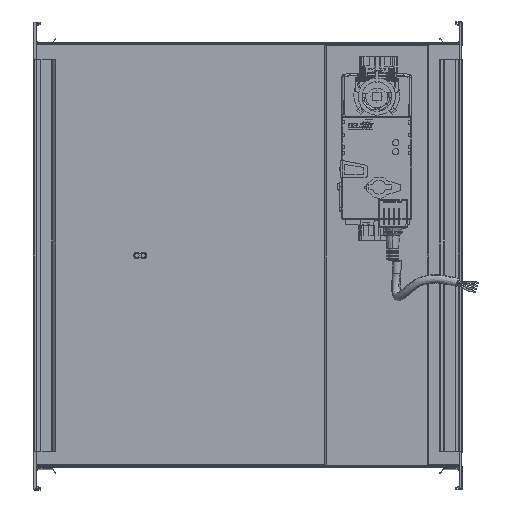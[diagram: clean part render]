
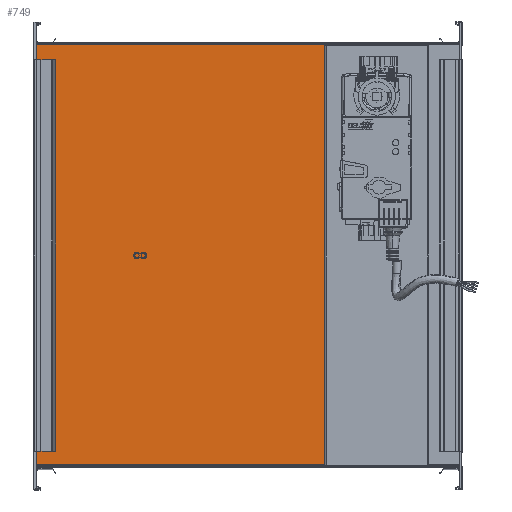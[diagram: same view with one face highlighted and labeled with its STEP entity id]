
A CAD part, top view. The second image highlights one B-rep face of the part: STEP entity #749.
In plain terms, the highlighted planar face has unit normal (0, 0, 1).
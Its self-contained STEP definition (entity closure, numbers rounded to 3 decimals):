
#749 = ADVANCED_FACE ( 'NONE', ( #80252 ), #9471, .T. ) ;
#943 = DIRECTION ( 'NONE',  ( 1., 0., 0. ) ) ;
#4103 = ORIENTED_EDGE ( 'NONE', *, *, #27367, .F. ) ;
#9471 = PLANE ( 'NONE',  #26843 ) ;
#15178 = CARTESIAN_POINT ( 'NONE',  ( -244.423, -183.848, 1350. ) ) ;
#16712 = CARTESIAN_POINT ( 'NONE',  ( -244.423, -183.848, 1350. ) ) ;
#16724 = CARTESIAN_POINT ( 'NONE',  ( 28.275, -185.848, 1350. ) ) ;
#19499 = CARTESIAN_POINT ( 'NONE',  ( -244.423, -183.848, 1350. ) ) ;
#19653 = VERTEX_POINT ( 'NONE', #43065 ) ;
#24758 = DIRECTION ( 'NONE',  ( 0., -1., 0. ) ) ;
#24804 = EDGE_LOOP ( 'NONE', ( #76116, #4103, #66779, #85977 ) ) ;
#26843 = AXIS2_PLACEMENT_3D ( 'NONE', #15178, #81664, #73600 ) ;
#27367 = EDGE_CURVE ( 'NONE', #19653, #86095, #44288, .T. ) ;
#34673 = DIRECTION ( 'NONE',  ( 1., 0., 0. ) ) ;
#40613 = CARTESIAN_POINT ( 'NONE',  ( -244.423, -183.848, 1350. ) ) ;
#41094 = EDGE_CURVE ( 'NONE', #41561, #86095, #78384, .T. ) ;
#41561 = VERTEX_POINT ( 'NONE', #40613 ) ;
#43065 = CARTESIAN_POINT ( 'NONE',  ( 28.275, 212.152, 1350. ) ) ;
#44288 = LINE ( 'NONE', #16724, #71934 ) ;
#53223 = LINE ( 'NONE', #16712, #82198 ) ;
#54018 = CARTESIAN_POINT ( 'NONE',  ( -244.423, 212.152, 1350. ) ) ;
#54491 = EDGE_CURVE ( 'NONE', #71288, #19653, #62730, .T. ) ;
#57074 = EDGE_CURVE ( 'NONE', #71288, #41561, #53223, .T. ) ;
#62730 = LINE ( 'NONE', #73126, #71370 ) ;
#66779 = ORIENTED_EDGE ( 'NONE', *, *, #54491, .F. ) ;
#70750 = VECTOR ( 'NONE', #34673, 1000. ) ;
#71288 = VERTEX_POINT ( 'NONE', #54018 ) ;
#71370 = VECTOR ( 'NONE', #943, 1000. ) ;
#71934 = VECTOR ( 'NONE', #73278, 1000. ) ;
#73126 = CARTESIAN_POINT ( 'NONE',  ( -244.423, 212.152, 1350. ) ) ;
#73278 = DIRECTION ( 'NONE',  ( 0., -1., 0. ) ) ;
#73600 = DIRECTION ( 'NONE',  ( 0., -1., 0. ) ) ;
#76116 = ORIENTED_EDGE ( 'NONE', *, *, #41094, .T. ) ;
#78384 = LINE ( 'NONE', #19499, #70750 ) ;
#79400 = CARTESIAN_POINT ( 'NONE',  ( 28.275, -183.848, 1350. ) ) ;
#80252 = FACE_OUTER_BOUND ( 'NONE', #24804, .T. ) ;
#81664 = DIRECTION ( 'NONE',  ( 0., 0., 1. ) ) ;
#82198 = VECTOR ( 'NONE', #24758, 1000. ) ;
#85977 = ORIENTED_EDGE ( 'NONE', *, *, #57074, .T. ) ;
#86095 = VERTEX_POINT ( 'NONE', #79400 ) ;
